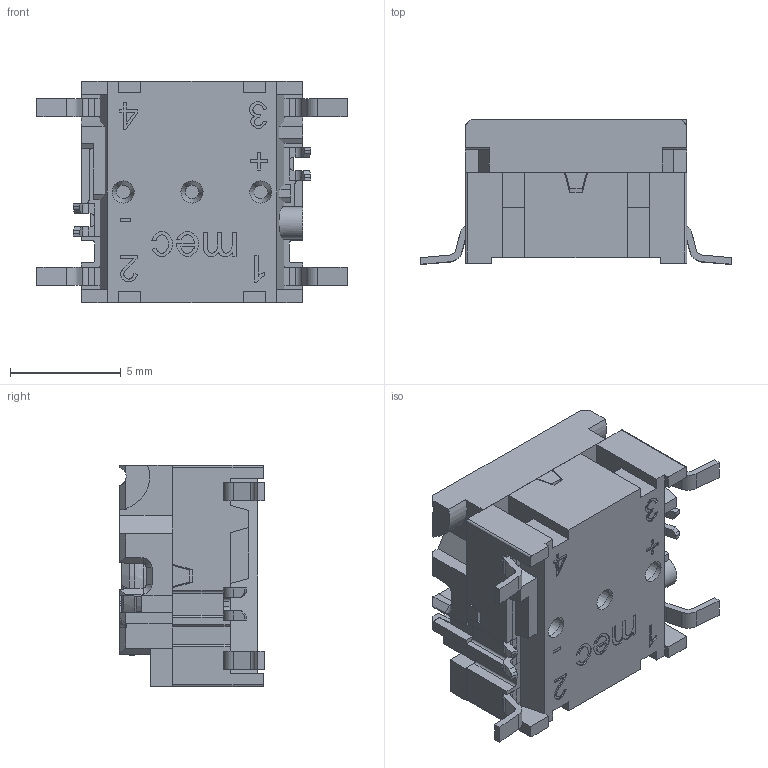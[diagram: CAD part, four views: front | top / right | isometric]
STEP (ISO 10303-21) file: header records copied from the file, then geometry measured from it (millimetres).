
FILE_DESCRIPTION((''),'2;1');
FILE_NAME('C:\Users\fd.MEC-AS\Desktop\Poul Johanssen Maskinfabrik\5GSH9xx.stp','2013-01-21T14:35:31',('fd'),(''),'Autodesk Inventor 2012','Autodesk Inventor 2012','');
FILE_SCHEMA(('AUTOMOTIVE_DESIGN { 1 0 10303 214 1 1 1 1 }'));
Length unit declared in the file: millimetre
Products named in the file (9): 5GSH9xx; 46000-ht-hus-smd; 46000_hus_HT; 46120-terminal-midt; 26120-smd-ben; act; splåg; 26050-gummidome; 26100-metaldome
Assembly tree (11 placements, depth 3):
  5GSH9xx
    46000-ht-hus-smd
      46000_hus_HT
      46120-terminal-midt
      26120-smd-ben  x4
    act
    splåg
    26050-gummidome
    26100-metaldome
Bounding box: 14.05 x 6.54 x 10 mm (x, y, z)
Volume: 470.7 mm3; surface area: 1382.5 mm2
Topology: 13 solids, 13 shells, 965 faces, 2678 edges, 1763 vertices
Faces by surface type: plane 594, cylinder 216, bspline 57, cone 53, torus 41, sphere 4
Full cylindrical faces by diameter (mm): 0.895 x1, 1 x3, 2.8 x1, 4.726 x1, 6.5 x1, 7.44 x1, 8.7 x1
Entity records: 30865 total; most frequent: CARTESIAN_POINT 7137, ORIENTED_EDGE 5036, DIRECTION 4652, EDGE_CURVE 2518, VERTEX_POINT 1678, VECTOR 1642, LINE 1642, AXIS2_PLACEMENT_3D 1505
